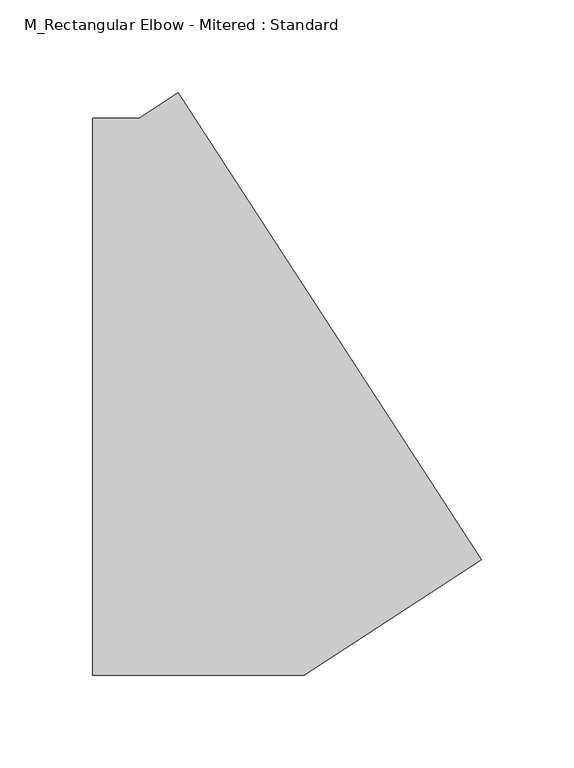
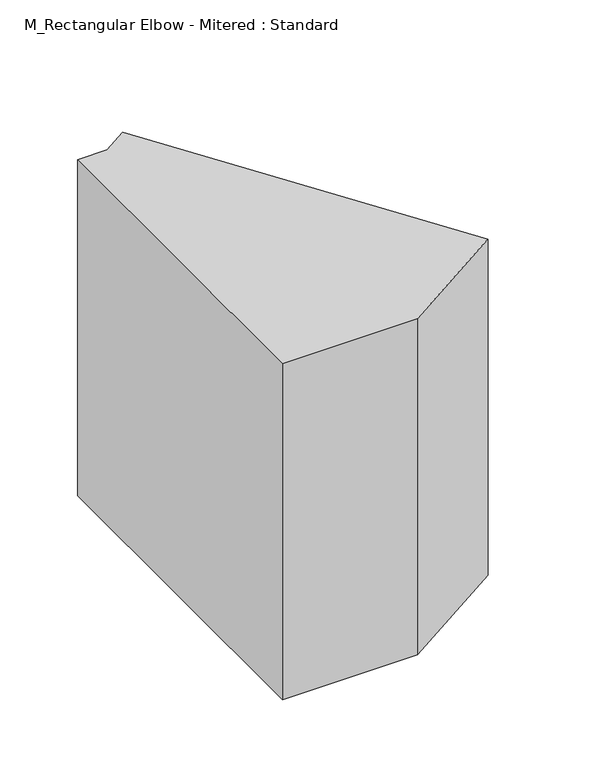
"""IFC4 building model written with IfcOpenShell, lengths in millimetres: duct fitting geometry, M_Rectangular Elbow - Mitered : Standard."""

from ifc_helpers import new_model, si_unit, frame, origin, place, context, project, spatial, polyline, outline, extrude, source, transform, mapped, element, save


def m_rectangular_elbow_mitered_standard_c00f9ebc(model_context):
    return source(origin(), model_context, "Body", "SweptSolid", [
        extrude(outline(polyline([(-69.4320242, -150.0), (-69.4320242, 150.0), (-44.4320242, 150.0), (-23.46526, 163.6159759), (139.9264505, -87.9851945), (44.4320242, -150.0), (-69.4320242, -150.0)])), frame((0.0, 0.0, -150.0), z_axis=(0.0, 0.0, 1.0), x_axis=(1.0, 0.0, 0.0)), (0.0, 0.0, 1.0), 300.0),
        extrude(outline(polyline([(-69.4320242, -150.0), (-69.4320242, 150.0), (-44.4320242, 150.0), (-23.46526, 163.6159759), (139.9264505, -87.9851945), (44.4320242, -150.0), (-69.4320242, -150.0)])), frame((0.0, 0.0, -150.0), z_axis=(0.0, 0.0, 1.0), x_axis=(1.0, 0.0, 0.0)), (0.0, 0.0, 1.0), 300.0),
        extrude(outline(polyline([(-69.4320242, -150.0), (-69.4320242, 150.0), (-44.4320242, 150.0), (-23.46526, 163.6159759), (139.9264505, -87.9851945), (44.4320242, -150.0), (-69.4320242, -150.0)])), frame((0.0, 0.0, -150.0), z_axis=(0.0, 0.0, 1.0), x_axis=(1.0, 0.0, 0.0)), (0.0, 0.0, 1.0), 300.0),
    ])


if __name__ == "__main__":
    model = new_model("IFC4")
    model_context = context("Model", 3, world=origin())
    ifc_project = project(units=[si_unit("LENGTHUNIT", "METRE", prefix="MILLI")], contexts=[model_context])
    site = spatial("IfcSite", under=ifc_project)
    building = spatial("IfcBuilding", under=site)
    placement = place(None, origin())
    m_rectangular_elbow_mitered_standard_shape = m_rectangular_elbow_mitered_standard_c00f9ebc(model_context)
    element("IfcDuctFitting", 1, ObjectType="M_Rectangular Elbow - Mitered : Standard", at=placement, inside=building, context=model_context, shape_type="MappedRepresentation", body=[
        mapped(m_rectangular_elbow_mitered_standard_shape, transform((0.0, 0.0, 0.0), x_axis=(1.0, 0.0, 0.0), y_axis=(0.0, 1.0, 0.0), z_axis=(0.0, 0.0, 1.0))),
    ])
    save(model, "model.ifc")
